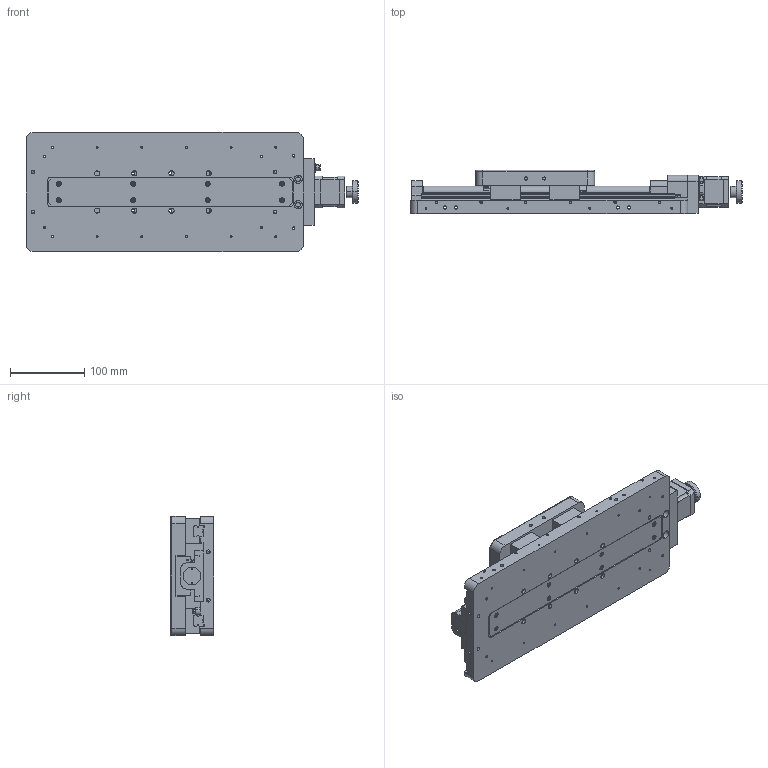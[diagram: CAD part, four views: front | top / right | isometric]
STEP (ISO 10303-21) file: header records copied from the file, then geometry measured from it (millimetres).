
FILE_DESCRIPTION (( 'STEP AP203' ), '1' );
FILE_NAME ('7STA02150Bµç¶¯Æ½ÒÆÌ¨.STEP', '2017-07-28T02:37:45', ( '' ), ( '' ), 'SwSTEP 2.0', 'SolidWorks 2014', '' );
FILE_SCHEMA (( 'CONFIG_CONTROL_DESIGN' ));
Length unit declared in the file: millimetre
Products named in the file (1): 7STA02150B萇雄す痄怢
Bounding box: 446 x 58 x 160 mm (x, y, z)
Surface area: 338164.7 mm2 (no closed solid volume)
Topology: 0 solids, 127 shells, 1406 faces, 4815 edges, 3413 vertices
Faces by surface type: plane 720, cylinder 502, torus 82, cone 70, sphere 32
Entity records: 52411 total; most frequent: CARTESIAN_POINT 10628, DIRECTION 9111, ORIENTED_EDGE 7416, EDGE_CURVE 4713, VERTEX_POINT 3373, AXIS2_PLACEMENT_3D 3178, LINE 2755, VECTOR 2755
